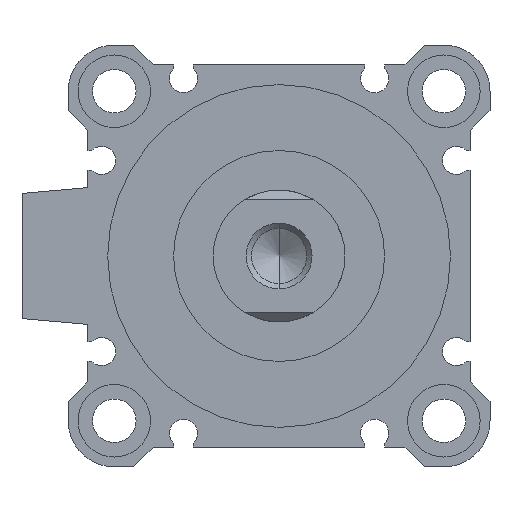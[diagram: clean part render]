
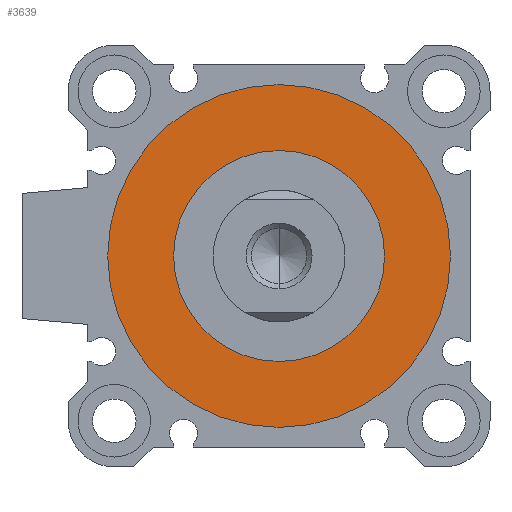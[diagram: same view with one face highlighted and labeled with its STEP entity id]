
A CAD part, left-side view. The second image highlights one B-rep face of the part: STEP entity #3639.
In plain terms, the highlighted planar face has unit normal (-1, 0, 0).
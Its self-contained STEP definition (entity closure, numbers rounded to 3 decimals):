
#69 = FACE_OUTER_BOUND ( 'NONE', #3861, .T. ) ;
#187 = VERTEX_POINT ( 'NONE', #2720 ) ;
#210 = DIRECTION ( 'NONE',  ( 0., 0., -1. ) ) ;
#298 = AXIS2_PLACEMENT_3D ( 'NONE', #4147, #2905, #2629 ) ;
#384 = AXIS2_PLACEMENT_3D ( 'NONE', #4788, #4392, #1605 ) ;
#830 = DIRECTION ( 'NONE',  ( 1., 0., 0. ) ) ;
#1214 = EDGE_CURVE ( 'NONE', #187, #2208, #2389, .T. ) ;
#1605 = DIRECTION ( 'NONE',  ( 0., 0., -1. ) ) ;
#1658 = CARTESIAN_POINT ( 'NONE',  ( 3., 0., 0. ) ) ;
#1748 = CIRCLE ( 'NONE', #298, 26. ) ;
#1940 = FACE_BOUND ( 'NONE', #4809, .T. ) ;
#2016 = PLANE ( 'NONE',  #3621 ) ;
#2055 = VERTEX_POINT ( 'NONE', #4863 ) ;
#2113 = EDGE_CURVE ( 'NONE', #2055, #4906, #1748, .T. ) ;
#2208 = VERTEX_POINT ( 'NONE', #2584 ) ;
#2274 = ORIENTED_EDGE ( 'NONE', *, *, #1214, .T. ) ;
#2389 = CIRCLE ( 'NONE', #4000, 16. ) ;
#2490 = EDGE_CURVE ( 'NONE', #2208, #187, #4528, .T. ) ;
#2584 = CARTESIAN_POINT ( 'NONE',  ( 3., 0., 16. ) ) ;
#2629 = DIRECTION ( 'NONE',  ( 0., 0., -1. ) ) ;
#2664 = DIRECTION ( 'NONE',  ( 1., 0., 0. ) ) ;
#2720 = CARTESIAN_POINT ( 'NONE',  ( 3., 0., -16. ) ) ;
#2905 = DIRECTION ( 'NONE',  ( 1., 0., 0. ) ) ;
#2910 = CARTESIAN_POINT ( 'NONE',  ( 3., 0., 26. ) ) ;
#3211 = DIRECTION ( 'NONE',  ( 0., 1., 0. ) ) ;
#3401 = CARTESIAN_POINT ( 'NONE',  ( 3., 0., 0. ) ) ;
#3421 = EDGE_CURVE ( 'NONE', #4906, #2055, #3504, .T. ) ;
#3504 = CIRCLE ( 'NONE', #4978, 26. ) ;
#3513 = CARTESIAN_POINT ( 'NONE',  ( 3., 0., 0. ) ) ;
#3540 = DIRECTION ( 'NONE',  ( 1., 0., 0. ) ) ;
#3584 = ORIENTED_EDGE ( 'NONE', *, *, #3421, .F. ) ;
#3621 = AXIS2_PLACEMENT_3D ( 'NONE', #1658, #830, #3211 ) ;
#3639 = ADVANCED_FACE ( 'NONE', ( #69, #1940 ), #2016, .F. ) ;
#3861 = EDGE_LOOP ( 'NONE', ( #3584, #4975 ) ) ;
#4000 = AXIS2_PLACEMENT_3D ( 'NONE', #3513, #3540, #210 ) ;
#4147 = CARTESIAN_POINT ( 'NONE',  ( 3., 0., 0. ) ) ;
#4300 = ORIENTED_EDGE ( 'NONE', *, *, #2490, .T. ) ;
#4392 = DIRECTION ( 'NONE',  ( 1., 0., 0. ) ) ;
#4528 = CIRCLE ( 'NONE', #384, 16. ) ;
#4638 = DIRECTION ( 'NONE',  ( 0., 0., -1. ) ) ;
#4788 = CARTESIAN_POINT ( 'NONE',  ( 3., 0., 0. ) ) ;
#4809 = EDGE_LOOP ( 'NONE', ( #4300, #2274 ) ) ;
#4863 = CARTESIAN_POINT ( 'NONE',  ( 3., 0., -26. ) ) ;
#4906 = VERTEX_POINT ( 'NONE', #2910 ) ;
#4975 = ORIENTED_EDGE ( 'NONE', *, *, #2113, .F. ) ;
#4978 = AXIS2_PLACEMENT_3D ( 'NONE', #3401, #2664, #4638 ) ;
